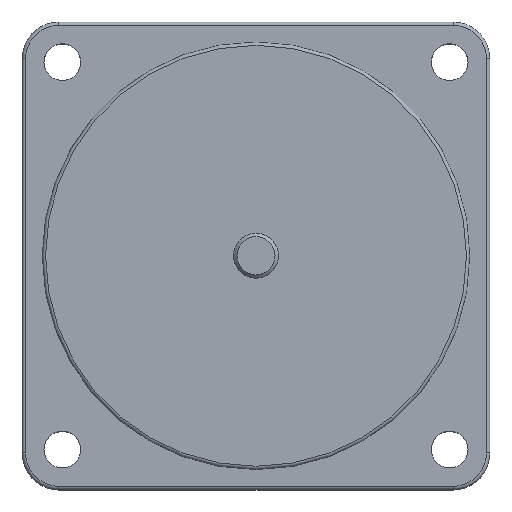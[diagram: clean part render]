
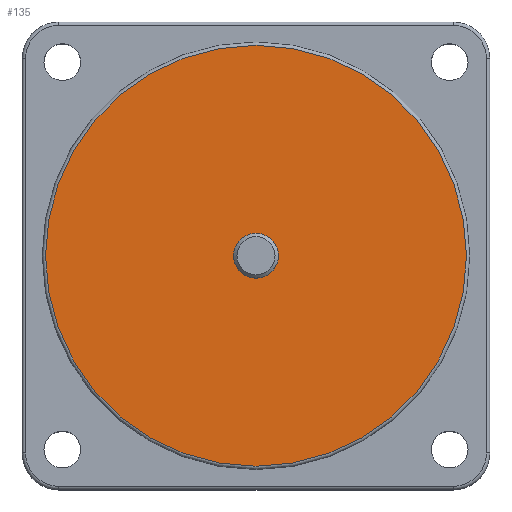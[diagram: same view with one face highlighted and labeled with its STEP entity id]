
A CAD part, top view. The second image highlights one B-rep face of the part: STEP entity #135.
In plain terms, the highlighted planar face has unit normal (0, 0, 1).
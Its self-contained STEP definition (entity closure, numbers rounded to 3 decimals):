
#73=CARTESIAN_POINT('',(31.5,0.,32.0));
#74=VERTEX_POINT('',#73);
#75=CARTESIAN_POINT('',(0.0,0.0,32.0));
#76=DIRECTION('',(0.0,0.0,-1.0));
#77=DIRECTION('',(-1.0,0.0,0.0));
#78=AXIS2_PLACEMENT_3D('',#75,#76,#77);
#79=CIRCLE('',#78,31.5);
#80=EDGE_CURVE('',#74,#74,#79,.T.);
#116=CARTESIAN_POINT('',(0.0,0.0,32.0));
#117=DIRECTION('',(0.0,0.0,-1.0));
#118=DIRECTION('',(-1.0,0.0,0.0));
#119=AXIS2_PLACEMENT_3D('',#116,#117,#118);
#120=PLANE('',#119);
#121=ORIENTED_EDGE('',*,*,#80,.F.);
#122=EDGE_LOOP('',(#121));
#123=FACE_OUTER_BOUND('',#122,.T.);
#124=CARTESIAN_POINT('',(3.35,0.,32.0));
#125=VERTEX_POINT('',#124);
#126=CARTESIAN_POINT('',(0.0,0.0,32.0));
#127=DIRECTION('',(0.0,0.0,-1.0));
#128=DIRECTION('',(-1.0,0.0,0.0));
#129=AXIS2_PLACEMENT_3D('',#126,#127,#128);
#130=CIRCLE('',#129,3.35);
#131=EDGE_CURVE('',#125,#125,#130,.T.);
#132=ORIENTED_EDGE('',*,*,#131,.T.);
#133=EDGE_LOOP('',(#132));
#134=FACE_BOUND('',#133,.T.);
#135=ADVANCED_FACE('',(#123,#134),#120,.F.);
